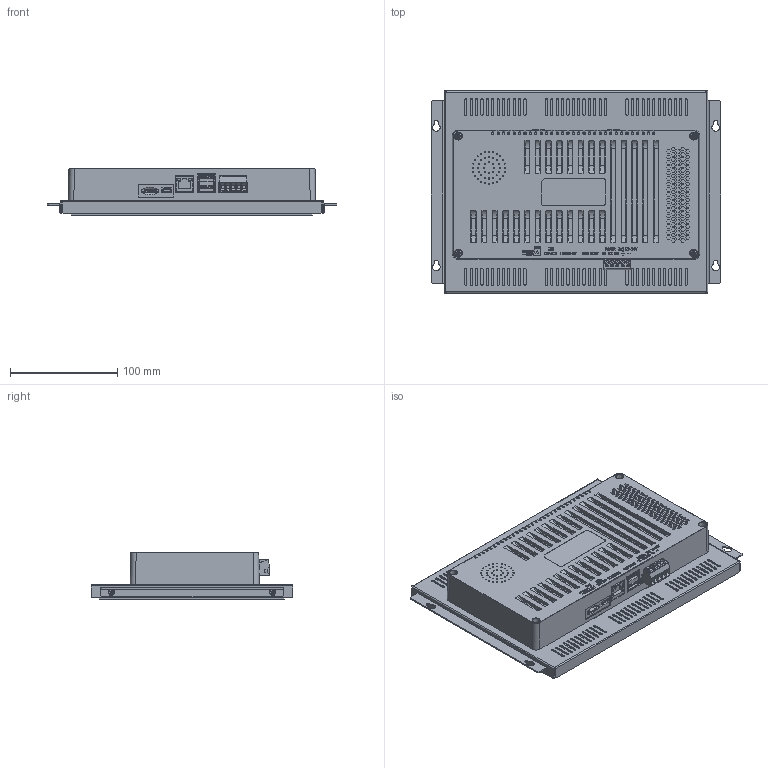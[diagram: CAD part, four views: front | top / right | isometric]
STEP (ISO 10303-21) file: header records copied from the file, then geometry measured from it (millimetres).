
FILE_DESCRIPTION (( 'STEP AP214' ), '1' );
FILE_NAME ('CPi-F101PR_ASM.STEP', '2024-01-03T07:08:45', ( '' ), ( '' ), 'SwSTEP 2.0', 'SolidWorks 2020', '' );
FILE_SCHEMA (( 'AUTOMOTIVE_DESIGN' ));
Length unit declared in the file: millimetre
Products named in the file (1): CPi-F101PR_ASM
Bounding box: 269 x 188 x 44.2 mm (x, y, z)
Volume: 1092190.8 mm3; surface area: 376836.1 mm2
Topology: 5 solids, 21 shells, 3835 faces, 10537 edges, 6852 vertices
Faces by surface type: plane 2422, cylinder 655, bspline 557, cone 153, torus 46, sphere 2
Full cylindrical faces by diameter (mm): 0.672 x1, 0.868 x1, 1.922 x1, 2.5 x8, 2.6 x4, 2.9 x8, 3 x8, 4 x5, 4.2 x4, 4.6 x4, 5 x8, 5.4 x4, 6 x4
Entity records: 137637 total; most frequent: CARTESIAN_POINT 45331, ORIENTED_EDGE 20566, DIRECTION 16305, EDGE_CURVE 10283, LINE 7291, VECTOR 7291, VERTEX_POINT 6752, EDGE_LOOP 4699
